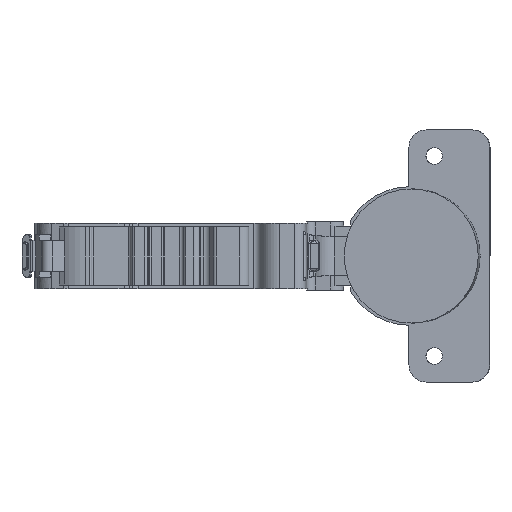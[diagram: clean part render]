
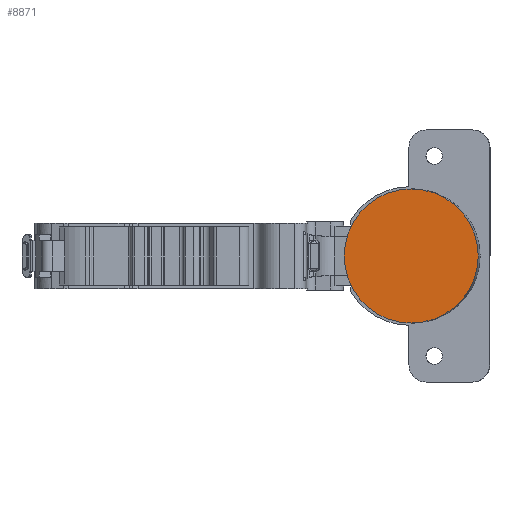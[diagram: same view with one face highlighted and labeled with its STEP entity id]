
A CAD part, front view. The second image highlights one B-rep face of the part: STEP entity #8871.
In plain terms, the highlighted planar face has unit normal (-0.042, -0.999, 0).
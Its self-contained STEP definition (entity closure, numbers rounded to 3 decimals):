
#501 = DIRECTION ( 'NONE',  ( 0.999, -0.042, 0. ) ) ;
#607 = EDGE_CURVE ( 'NONE', #4828, #5065, #1324, .T. ) ;
#1018 = FACE_OUTER_BOUND ( 'NONE', #8397, .T. ) ;
#1157 = AXIS2_PLACEMENT_3D ( 'NONE', #4186, #8112, #3307 ) ;
#1324 = CIRCLE ( 'NONE', #1157, 17.45 ) ;
#1966 = AXIS2_PLACEMENT_3D ( 'NONE', #7678, #3535, #2606 ) ;
#2488 = CARTESIAN_POINT ( 'NONE',  ( 44.611, -0.789, 0. ) ) ;
#2606 = DIRECTION ( 'NONE',  ( 0.999, -0.042, 0. ) ) ;
#3307 = DIRECTION ( 'NONE',  ( 0.999, -0.042, 0. ) ) ;
#3535 = DIRECTION ( 'NONE',  ( -0.042, -0.999, 0. ) ) ;
#4108 = ORIENTED_EDGE ( 'NONE', *, *, #607, .T. ) ;
#4186 = CARTESIAN_POINT ( 'NONE',  ( 62.045, -1.526, 0. ) ) ;
#4828 = VERTEX_POINT ( 'NONE', #4835 ) ;
#4835 = CARTESIAN_POINT ( 'NONE',  ( 79.48, -2.263, 0. ) ) ;
#5065 = VERTEX_POINT ( 'NONE', #2488 ) ;
#7678 = CARTESIAN_POINT ( 'NONE',  ( 62.045, -1.526, 0. ) ) ;
#8024 = DIRECTION ( 'NONE',  ( -0.042, -0.999, 0. ) ) ;
#8112 = DIRECTION ( 'NONE',  ( -0.042, -0.999, 0. ) ) ;
#8177 = EDGE_CURVE ( 'NONE', #5065, #4828, #10479, .T. ) ;
#8230 = AXIS2_PLACEMENT_3D ( 'NONE', #10519, #8024, #501 ) ;
#8257 = ORIENTED_EDGE ( 'NONE', *, *, #8177, .T. ) ;
#8397 = EDGE_LOOP ( 'NONE', ( #4108, #8257 ) ) ;
#8597 = PLANE ( 'NONE',  #1966 ) ;
#8871 = ADVANCED_FACE ( 'NONE', ( #1018 ), #8597, .T. ) ;
#10479 = CIRCLE ( 'NONE', #8230, 17.45 ) ;
#10519 = CARTESIAN_POINT ( 'NONE',  ( 62.045, -1.526, 0. ) ) ;
